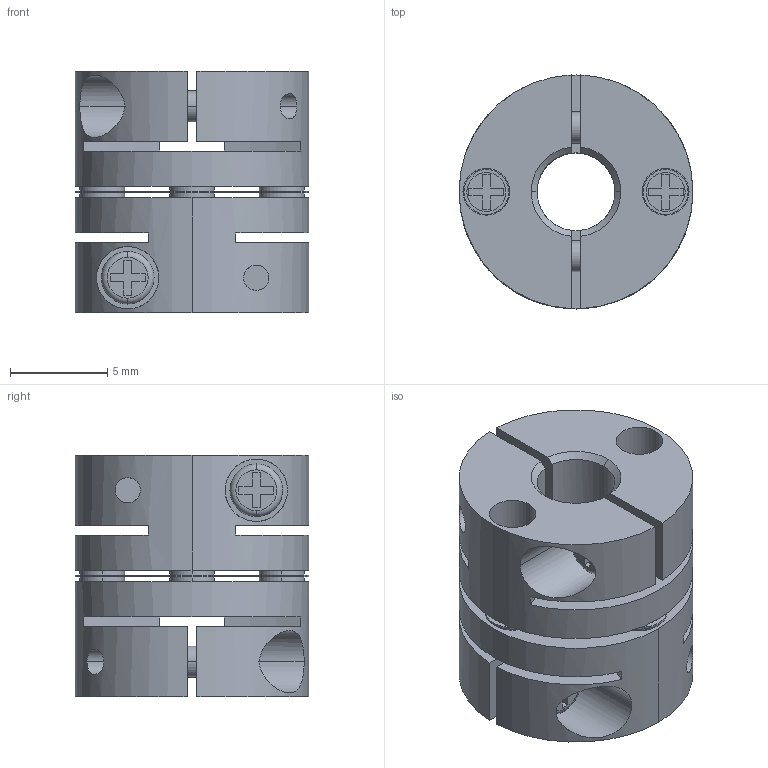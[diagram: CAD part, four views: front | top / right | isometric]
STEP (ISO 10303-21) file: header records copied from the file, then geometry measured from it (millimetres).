
FILE_DESCRIPTION((''),'2;1');
FILE_NAME('LAS-12C-4×4.stp','2011-08-11T11:57:48',(''),(''),'AutoCAD STEP 2000i','AutoCAD 2000i',', , ');
FILE_SCHEMA(('CONFIG_CONTROL_DESIGN'));
Length unit declared in the file: millimetre
Products named in the file (5): LAS-12C-3×3; 忣兜1; LA-1202-D03-1; LA-1202-D03; LAS12-ITA
Assembly tree (4 placements, depth 2):
  LAS-12C-3×3
    忣兜1
    LA-1202-D03-1
    LA-1202-D03
    LAS12-ITA
Bounding box: 12 x 12 x 12.4 mm (x, y, z)
Volume: 899.8 mm3; surface area: 1796.4 mm2
Topology: 1 solids, 1 shells, 264 faces, 692 edges, 460 vertices
Faces by surface type: plane 156, cylinder 88, cone 12, torus 8
Entity records: 8707 total; most frequent: CARTESIAN_POINT 1805, DIRECTION 1438, ORIENTED_EDGE 1384, EDGE_CURVE 692, AXIS2_PLACEMENT_3D 501, VERTEX_POINT 460, VECTOR 436, LINE 436
